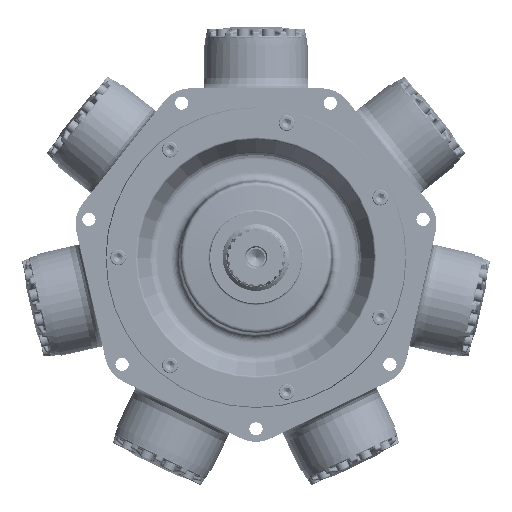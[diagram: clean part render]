
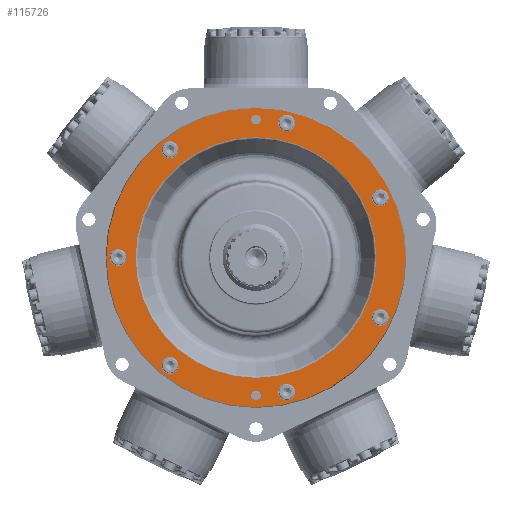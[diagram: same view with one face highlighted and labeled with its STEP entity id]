
A CAD part, top view. The second image highlights one B-rep face of the part: STEP entity #115726.
In plain terms, the highlighted planar face has unit normal (0, 0, 1).
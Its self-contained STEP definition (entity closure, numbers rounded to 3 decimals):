
#10195=FACE_BOUND('',#35631,.T.);
#10196=FACE_BOUND('',#35632,.T.);
#10197=FACE_BOUND('',#35633,.T.);
#10198=FACE_BOUND('',#35634,.T.);
#10199=FACE_BOUND('',#35635,.T.);
#10200=FACE_BOUND('',#35636,.T.);
#10201=FACE_BOUND('',#35637,.T.);
#10202=FACE_BOUND('',#35638,.T.);
#10203=FACE_BOUND('',#35639,.T.);
#10204=FACE_BOUND('',#35640,.T.);
#28563=FACE_OUTER_BOUND('',#35630,.T.);
#35630=EDGE_LOOP('',(#90421));
#35631=EDGE_LOOP('',(#90422));
#35632=EDGE_LOOP('',(#90423));
#35633=EDGE_LOOP('',(#90424));
#35634=EDGE_LOOP('',(#90425));
#35635=EDGE_LOOP('',(#90426));
#35636=EDGE_LOOP('',(#90427));
#35637=EDGE_LOOP('',(#90428));
#35638=EDGE_LOOP('',(#90429));
#35639=EDGE_LOOP('',(#90430));
#35640=EDGE_LOOP('',(#90431));
#40908=CIRCLE('',#123842,7.176);
#40910=CIRCLE('',#123845,7.176);
#40912=CIRCLE('',#123848,12.7);
#40914=CIRCLE('',#123851,12.7);
#40915=CIRCLE('',#123853,12.7);
#40917=CIRCLE('',#123856,12.7);
#40918=CIRCLE('',#123858,12.7);
#40919=CIRCLE('',#123860,12.7);
#40921=CIRCLE('',#123863,12.7);
#40922=CIRCLE('',#123865,227.279);
#40925=CIRCLE('',#123870,182.808);
#48399=VERTEX_POINT('',#263267);
#48401=VERTEX_POINT('',#263273);
#48403=VERTEX_POINT('',#263279);
#48405=VERTEX_POINT('',#263285);
#48406=VERTEX_POINT('',#263289);
#48408=VERTEX_POINT('',#263295);
#48409=VERTEX_POINT('',#263299);
#48410=VERTEX_POINT('',#263303);
#48412=VERTEX_POINT('',#263309);
#48413=VERTEX_POINT('',#263313);
#48416=VERTEX_POINT('',#263323);
#62973=EDGE_CURVE('',#48399,#48399,#40908,.T.);
#62976=EDGE_CURVE('',#48401,#48401,#40910,.T.);
#62980=EDGE_CURVE('',#48403,#48403,#40912,.T.);
#62983=EDGE_CURVE('',#48405,#48405,#40914,.T.);
#62985=EDGE_CURVE('',#48406,#48406,#40915,.T.);
#62988=EDGE_CURVE('',#48408,#48408,#40917,.T.);
#62990=EDGE_CURVE('',#48409,#48409,#40918,.T.);
#62992=EDGE_CURVE('',#48410,#48410,#40919,.T.);
#62995=EDGE_CURVE('',#48412,#48412,#40921,.T.);
#62996=EDGE_CURVE('',#48413,#48413,#40922,.T.);
#63001=EDGE_CURVE('',#48416,#48416,#40925,.T.);
#90421=ORIENTED_EDGE('',*,*,#62996,.F.);
#90422=ORIENTED_EDGE('',*,*,#62973,.T.);
#90423=ORIENTED_EDGE('',*,*,#62976,.T.);
#90424=ORIENTED_EDGE('',*,*,#62980,.T.);
#90425=ORIENTED_EDGE('',*,*,#62983,.T.);
#90426=ORIENTED_EDGE('',*,*,#62985,.T.);
#90427=ORIENTED_EDGE('',*,*,#62988,.T.);
#90428=ORIENTED_EDGE('',*,*,#62990,.T.);
#90429=ORIENTED_EDGE('',*,*,#62992,.T.);
#90430=ORIENTED_EDGE('',*,*,#62995,.T.);
#90431=ORIENTED_EDGE('',*,*,#63001,.F.);
#103261=PLANE('',#123869);
#115726=ADVANCED_FACE('',(#28563,#10195,#10196,#10197,#10198,#10199,#10200,
#10201,#10202,#10203,#10204),#103261,.T.);
#123842=AXIS2_PLACEMENT_3D('',#263268,#141448,#141449);
#123845=AXIS2_PLACEMENT_3D('',#263274,#141455,#141456);
#123848=AXIS2_PLACEMENT_3D('',#263281,#141463,#141464);
#123851=AXIS2_PLACEMENT_3D('',#263287,#141470,#141471);
#123853=AXIS2_PLACEMENT_3D('',#263291,#141475,#141476);
#123856=AXIS2_PLACEMENT_3D('',#263297,#141482,#141483);
#123858=AXIS2_PLACEMENT_3D('',#263301,#141487,#141488);
#123860=AXIS2_PLACEMENT_3D('',#263305,#141492,#141493);
#123863=AXIS2_PLACEMENT_3D('',#263311,#141499,#141500);
#123865=AXIS2_PLACEMENT_3D('',#263314,#141503,#141504);
#123869=AXIS2_PLACEMENT_3D('',#263322,#141513,#141514);
#123870=AXIS2_PLACEMENT_3D('',#263324,#141515,#141516);
#141448=DIRECTION('center_axis',(0.,0.,
-1.));
#141449=DIRECTION('ref_axis',(1.,0.,0.));
#141455=DIRECTION('center_axis',(0.,0.,
-1.));
#141456=DIRECTION('ref_axis',(1.,0.,0.));
#141463=DIRECTION('center_axis',(0.,0.,
-1.));
#141464=DIRECTION('ref_axis',(-0.623,0.782,0.));
#141470=DIRECTION('center_axis',(0.,0.,
-1.));
#141471=DIRECTION('ref_axis',(0.223,0.975,0.));
#141475=DIRECTION('center_axis',(0.,0.,
-1.));
#141476=DIRECTION('ref_axis',(0.901,0.434,0.));
#141482=DIRECTION('center_axis',(0.,0.,
-1.));
#141483=DIRECTION('ref_axis',(0.901,-0.434,0.));
#141487=DIRECTION('center_axis',(0.,0.,
-1.));
#141488=DIRECTION('ref_axis',(0.223,-0.975,0.));
#141492=DIRECTION('center_axis',(0.,0.,
-1.));
#141493=DIRECTION('ref_axis',(-0.623,-0.782,0.));
#141499=DIRECTION('center_axis',(0.,0.,
-1.));
#141500=DIRECTION('ref_axis',(-1.,0.,0.));
#141503=DIRECTION('center_axis',(0.,0.,
-1.));
#141504=DIRECTION('ref_axis',(0.,1.,0.));
#141513=DIRECTION('center_axis',(0.,0.,
1.));
#141514=DIRECTION('ref_axis',(0.,1.,0.));
#141515=DIRECTION('center_axis',(0.,0.,
1.));
#141516=DIRECTION('ref_axis',(1.,0.,0.));
#263267=CARTESIAN_POINT('',(-7.175,209.55,123.104));
#263268=CARTESIAN_POINT('Origin',(0.,209.55,123.104));
#263273=CARTESIAN_POINT('',(-7.176,-209.55,123.104));
#263274=CARTESIAN_POINT('Origin',(0.,-209.55,123.104));
#263279=CARTESIAN_POINT('',(-122.734,153.904,123.104));
#263281=CARTESIAN_POINT('Origin',(-130.652,163.833,123.104));
#263285=CARTESIAN_POINT('',(43.803,191.915,123.104));
#263287=CARTESIAN_POINT('Origin',(46.629,204.296,123.104));
#263289=CARTESIAN_POINT('',(177.356,85.41,123.104));
#263291=CARTESIAN_POINT('Origin',(188.798,90.92,123.104));
#263295=CARTESIAN_POINT('',(177.356,-85.41,123.104));
#263297=CARTESIAN_POINT('Origin',(188.798,-90.92,123.104));
#263299=CARTESIAN_POINT('',(43.803,-191.915,123.104));
#263301=CARTESIAN_POINT('Origin',(46.629,-204.296,123.104));
#263303=CARTESIAN_POINT('',(-122.734,-153.904,123.104));
#263305=CARTESIAN_POINT('Origin',(-130.652,-163.833,123.104));
#263309=CARTESIAN_POINT('',(-196.85,0.,123.104));
#263311=CARTESIAN_POINT('Origin',(-209.55,0.,123.104));
#263313=CARTESIAN_POINT('',(0.,-227.279,123.104));
#263314=CARTESIAN_POINT('Origin',(0.,0.,
123.104));
#263322=CARTESIAN_POINT('Origin',(-206.375,0.,123.104));
#263323=CARTESIAN_POINT('',(0.,-182.808,123.104));
#263324=CARTESIAN_POINT('Origin',(0.,0.,
123.104));
